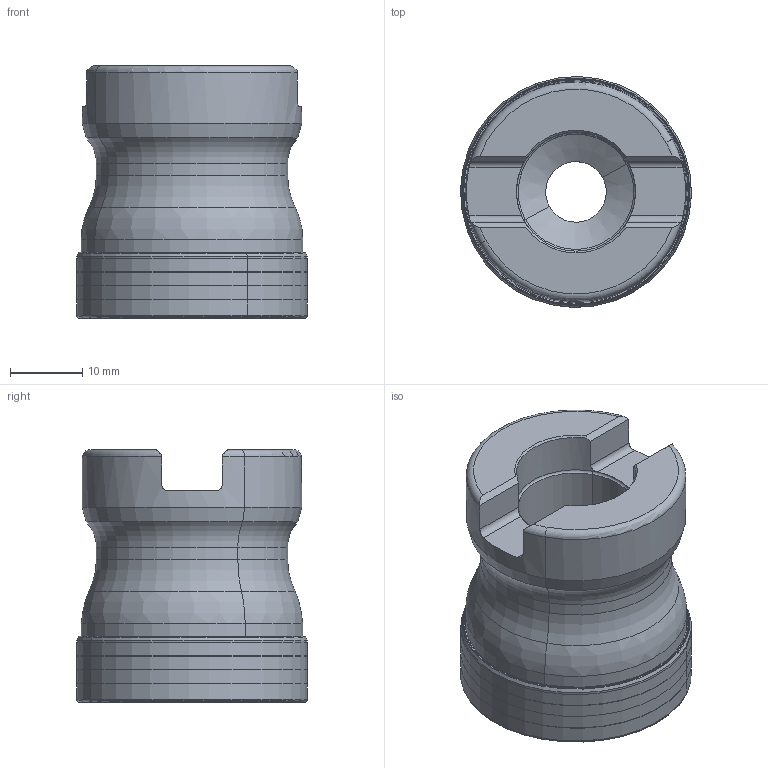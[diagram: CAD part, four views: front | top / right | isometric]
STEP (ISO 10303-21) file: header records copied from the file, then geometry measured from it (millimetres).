
FILE_DESCRIPTION(('CATIA V5 STEP','CAx-IF Rec.Pracs.--- Model Styling and Organization---1.2---2011-12-15'),'2;1');
FILE_NAME('\\nas01\drv1\utils\eitdev\rte\eit\transmagicconvert\db\out\635668698667403543\3106661L.stp','2015-05-10T12:51:13+00:00',('none'),('none'),'CATIA Version 5 Release 21 SP 5 (IN-10)','CATIA V5 STEP AP214','none');
FILE_SCHEMA(('AUTOMOTIVE_DESIGN { 1 0 10303 214 1 1 1 1 }'));
Length unit declared in the file: millimetre
Products named in the file (1): H690 F90AX D032-5-16-10
Bounding box: 31.99 x 31.99 x 35 mm (x, y, z)
Volume: 20851.8 mm3; surface area: 8060.1 mm2
Topology: 2 solids, 2 shells, 119 faces, 260 edges, 142 vertices
Faces by surface type: revolution 68, cylinder 16, torus 14, plane 13, cone 8
Entity records: 3951 total; most frequent: CARTESIAN_POINT 1657, ORIENTED_EDGE 520, DIRECTION 290, EDGE_CURVE 260, B_SPLINE_CURVE_WITH_KNOTS 164, AXIS2_PLACEMENT_3D 152, VERTEX_POINT 142, CIRCLE 122
